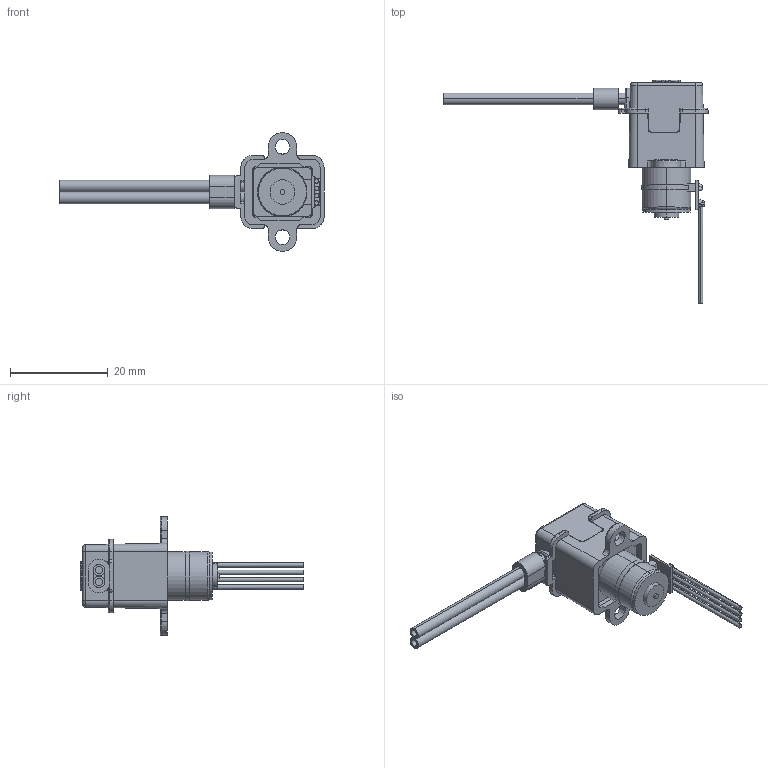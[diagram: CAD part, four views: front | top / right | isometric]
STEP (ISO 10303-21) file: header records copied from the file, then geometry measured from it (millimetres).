
FILE_DESCRIPTION (( 'STEP AP214' ), '1' );
FILE_NAME ('rp-q3-stpm-20240617.STEP', '2024-06-18T07:22:17', ( '' ), ( '' ), 'SwSTEP 2.0', 'SolidWorks 2023', '' );
FILE_SCHEMA (( 'AUTOMOTIVE_DESIGN' ));
Length unit declared in the file: millimetre
Products named in the file (7): rp-q3-stpm-20240617; Tibe for WEB-2; Tube stopper -for WEB -2; CASE3; ROTOR A; Stepping Motor for Q2; BASE
Assembly tree (6 placements, depth 2):
  rp-q3-stpm-20240617
    BASE
    ROTOR A
    CASE3
    Stepping Motor for Q2
    Tibe for WEB-2
    Tube stopper -for WEB -2
Bounding box: 54 x 45.65 x 24.3 mm (x, y, z)
Volume: 4476.2 mm3; surface area: 4623.7 mm2
Topology: 7 solids, 7 shells, 411 faces, 1014 edges, 646 vertices
Faces by surface type: plane 184, cylinder 112, cone 68, bspline 45, torus 2
Entity records: 14788 total; most frequent: CARTESIAN_POINT 5306, ORIENTED_EDGE 2028, DIRECTION 1776, EDGE_CURVE 1014, VERTEX_POINT 646, AXIS2_PLACEMENT_3D 622, VECTOR 532, LINE 532
